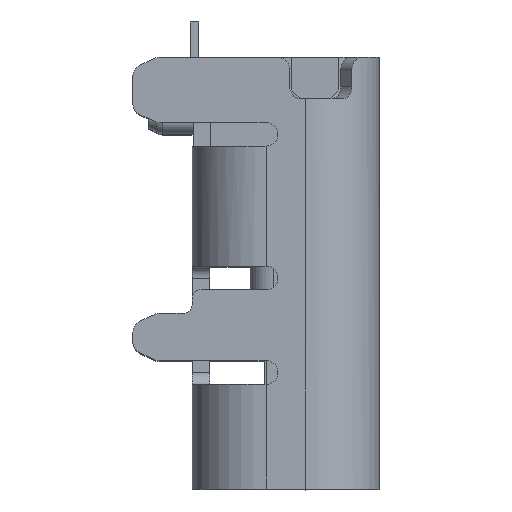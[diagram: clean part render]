
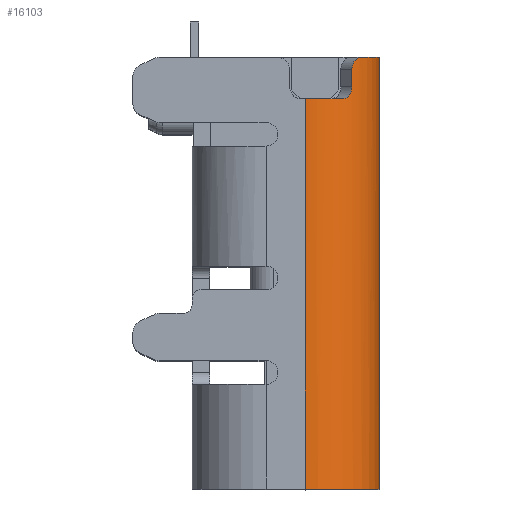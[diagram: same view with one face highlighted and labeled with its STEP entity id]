
A CAD part, top view. The second image highlights one B-rep face of the part: STEP entity #16103.
In plain terms, the highlighted cylindrical face has radius 1.25 mm (diameter 2.5 mm), a partial arc.
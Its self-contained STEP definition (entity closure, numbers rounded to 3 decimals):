
#3693=CARTESIAN_POINT('',(0.005,-4.8,
3.22));
#3694=DIRECTION('',(0.,-1.,0.));
#3695=DIRECTION('',(1.,0.,0.));
#3696=AXIS2_PLACEMENT_3D('',#3693,#3694,#3695);
#4056=CARTESIAN_POINT('',(0.005,1.8,3.22));
#4057=DIRECTION('',(0.,-1.,0.));
#4058=DIRECTION('',(0.336,0.,0.942));
#4059=AXIS2_PLACEMENT_3D('',#4056,#4057,#4058);
#4061=DIRECTION('',(0.,-1.,0.));
#4062=VECTOR('',#4061,0.3);
#4063=CARTESIAN_POINT('',(0.797,2.3,4.187));
#4064=LINE('',#4063,#4062);
#4065=DIRECTION('',(0.,1.,0.));
#4066=VECTOR('',#4065,7.3);
#4067=CARTESIAN_POINT('',(1.255,-4.8,3.22));
#4068=LINE('',#4067,#4066);
#4069=DIRECTION('',(0.,-1.,0.));
#4070=VECTOR('',#4069,6.6);
#4071=CARTESIAN_POINT('',(0.005,1.8,4.47));
#4072=LINE('',#4071,#4070);
#4077=CARTESIAN_POINT('',(0.005,1.8,3.22));
#4078=DIRECTION('',(0.,1.,0.));
#4079=DIRECTION('',(0.,0.,1.));
#4080=AXIS2_PLACEMENT_3D('',#4077,#4078,#4079);
#4099=CARTESIAN_POINT('',(0.005,1.8,3.22));
#4100=DIRECTION('',(0.,1.,0.));
#4101=DIRECTION('',(0.336,0.,0.942));
#4102=AXIS2_PLACEMENT_3D('',#4099,#4100,#4101);
#5121=CARTESIAN_POINT('',(0.005,2.5,3.22));
#5122=DIRECTION('',(0.,1.,0.));
#5123=DIRECTION('',(0.749,0.,0.662));
#5124=AXIS2_PLACEMENT_3D('',#5121,#5122,#5123);
#5157=CARTESIAN_POINT('',(0.797,2.3,4.187));
#5158=CARTESIAN_POINT('',(0.797,2.318,4.187));
#5159=CARTESIAN_POINT('',(0.801,2.353,4.184));
#5160=CARTESIAN_POINT('',(0.816,2.401,4.171));
#5161=CARTESIAN_POINT('',(0.84,2.443,4.15));
#5162=CARTESIAN_POINT('',(0.871,2.475,4.122));
#5163=CARTESIAN_POINT('',(0.906,2.495,4.087));
#5164=CARTESIAN_POINT('',(0.93,2.5,4.061));
#5165=CARTESIAN_POINT('',(0.942,2.5,4.048));
#5171=CARTESIAN_POINT('',(0.632,1.8,4.301));
#5172=CARTESIAN_POINT('',(0.647,1.8,4.292));
#5173=CARTESIAN_POINT('',(0.677,1.805,4.274));
#5174=CARTESIAN_POINT('',(0.718,1.825,4.247));
#5175=CARTESIAN_POINT('',(0.752,1.857,4.223));
#5176=CARTESIAN_POINT('',(0.777,1.898,4.203));
#5177=CARTESIAN_POINT('',(0.793,1.947,4.19));
#5178=CARTESIAN_POINT('',(0.797,1.982,4.187));
#5179=CARTESIAN_POINT('',(0.797,2.,4.187));
#8930=CARTESIAN_POINT('',(1.255,-4.8,3.22));
#8931=VERTEX_POINT('',#8930);
#8932=CARTESIAN_POINT('',(0.005,-4.8,
4.47));
#8933=VERTEX_POINT('',#8932);
#8994=CARTESIAN_POINT('',(1.255,2.5,3.22));
#8995=VERTEX_POINT('',#8994);
#8996=CARTESIAN_POINT('',(0.942,2.5,4.048));
#8997=VERTEX_POINT('',#8996);
#8998=VERTEX_POINT('',#5157);
#8999=CARTESIAN_POINT('',(0.797,2.,4.187));
#9000=VERTEX_POINT('',#8999);
#9001=VERTEX_POINT('',#5171);
#9002=CARTESIAN_POINT('',(0.005,1.8,4.47));
#9003=VERTEX_POINT('',#9002);
#10450=CARTESIAN_POINT('',(0.425,1.8,
4.397));
#10451=CARTESIAN_POINT('',(0.198,1.8,
4.455));
#10452=VERTEX_POINT('',#10450);
#10453=VERTEX_POINT('',#10451);
#16078=CARTESIAN_POINT('',(0.005,6056937.691,
3.22));
#16079=DIRECTION('',(0.,-1.,0.));
#16080=DIRECTION('',(0.,0.,-1.));
#16081=AXIS2_PLACEMENT_3D('',#16078,#16079,#16080);
#16082=CYLINDRICAL_SURFACE('',#16081,1.25);
#16083=ORIENTED_EDGE('',*,*,#16050,.F.);
#16085=ORIENTED_EDGE('',*,*,#16084,.T.);
#16087=ORIENTED_EDGE('',*,*,#16086,.T.);
#16089=ORIENTED_EDGE('',*,*,#16088,.F.);
#16091=ORIENTED_EDGE('',*,*,#16090,.T.);
#16093=ORIENTED_EDGE('',*,*,#16092,.T.);
#16095=ORIENTED_EDGE('',*,*,#16094,.F.);
#16096=ORIENTED_EDGE('',*,*,#15604,.T.);
#16098=ORIENTED_EDGE('',*,*,#16097,.F.);
#16100=ORIENTED_EDGE('',*,*,#16099,.T.);
#16101=EDGE_LOOP('',(#16083,#16085,#16087,#16089,#16091,#16093,#16095,#16096,
#16098,#16100));
#16102=FACE_OUTER_BOUND('',#16101,.F.);
#3697=CIRCLE('',#3696,1.25);
#4060=CIRCLE('',#4059,1.25);
#4081=CIRCLE('',#4080,1.25);
#4103=CIRCLE('',#4102,1.25);
#5125=CIRCLE('',#5124,1.25);
#5166=B_SPLINE_CURVE_WITH_KNOTS('',3,(#5157,#5158,#5159,#5160,#5161,#5162,#5163,
#5164,#5165),.UNSPECIFIED.,.F.,.F.,(4,1,1,1,1,1,4),(0.,0.167,
0.333,0.5,0.667,0.833,1.),
.UNSPECIFIED.);
#5180=B_SPLINE_CURVE_WITH_KNOTS('',3,(#5171,#5172,#5173,#5174,#5175,#5176,#5177,
#5178,#5179),.UNSPECIFIED.,.F.,.F.,(4,1,1,1,1,1,4),(0.,0.167,
0.333,0.5,0.667,0.833,1.),
.UNSPECIFIED.);
#15604=EDGE_CURVE('',#8931,#8933,#3697,.T.);
#16050=EDGE_CURVE('',#10452,#10453,#4060,.T.);
#16084=EDGE_CURVE('',#10452,#9001,#4103,.T.);
#16086=EDGE_CURVE('',#9001,#9000,#5180,.T.);
#16088=EDGE_CURVE('',#8998,#9000,#4064,.T.);
#16090=EDGE_CURVE('',#8998,#8997,#5166,.T.);
#16092=EDGE_CURVE('',#8997,#8995,#5125,.T.);
#16094=EDGE_CURVE('',#8931,#8995,#4068,.T.);
#16097=EDGE_CURVE('',#9003,#8933,#4072,.T.);
#16099=EDGE_CURVE('',#9003,#10453,#4081,.T.);
#16103=ADVANCED_FACE('',(#16102),#16082,.T.);
